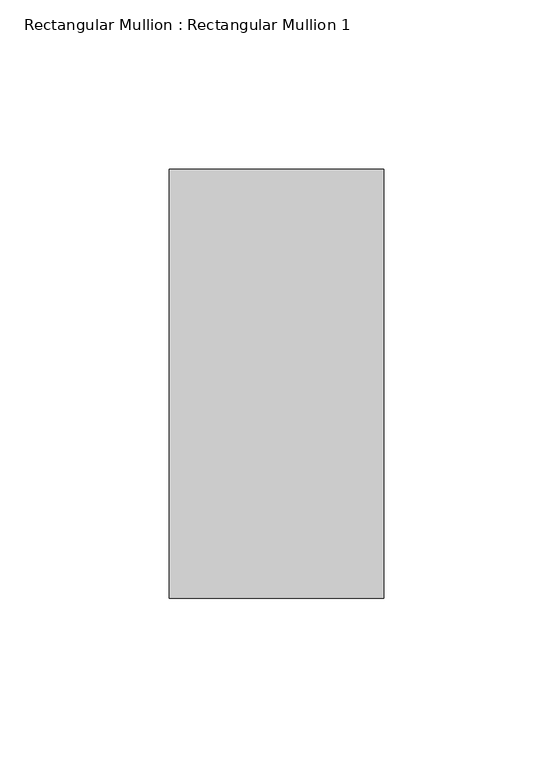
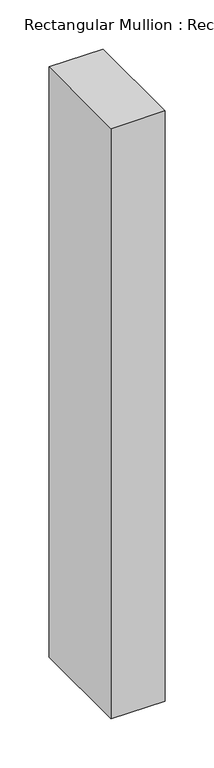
"""IFC4 building model written with IfcOpenShell, lengths in millimetres: member geometry, Rectangular Mullion : Rectangular Mullion 1."""

from ifc_helpers import new_model, si_unit, frame, origin, place, context, project, spatial, polyline, outline, extrude, source, transform, mapped, element, save


def rectangular_mullion_rectangular_mullion_1_3f3399ab(model_context):
    return source(origin(), model_context, "Body", "SweptSolid", [
        extrude(outline(polyline([(31.75, 63.5), (31.75, -63.5), (-31.75, -63.5), (-31.75, 63.5), (31.75, 63.5)])), frame((0.0, 0.0, -733.9526365), z_axis=(0.0, 0.0, 1.0), x_axis=(1.0, 0.0, 0.0)), (0.0, 0.0, 1.0), 733.9526365),
    ])


if __name__ == "__main__":
    model = new_model("IFC4")
    model_context = context("Model", 3, world=origin())
    ifc_project = project(units=[si_unit("LENGTHUNIT", "METRE", prefix="MILLI")], contexts=[model_context])
    site = spatial("IfcSite", under=ifc_project)
    building = spatial("IfcBuilding", under=site)
    placement = place(None, origin())
    rectangular_mullion_rectangular_mullion_1_shape = rectangular_mullion_rectangular_mullion_1_3f3399ab(model_context)
    element("IfcMember", 1, ObjectType="Rectangular Mullion : Rectangular Mullion 1", at=placement, inside=building, context=model_context, shape_type="MappedRepresentation", body=[
        mapped(rectangular_mullion_rectangular_mullion_1_shape, transform((0.0, 0.0, 0.0), x_axis=(1.0, 0.0, 0.0), y_axis=(0.0, 1.0, 0.0), z_axis=(0.0, 0.0, 1.0))),
    ])
    save(model, "model.ifc")
